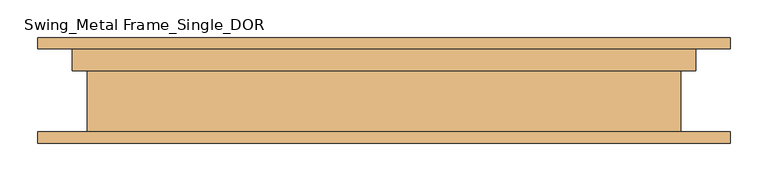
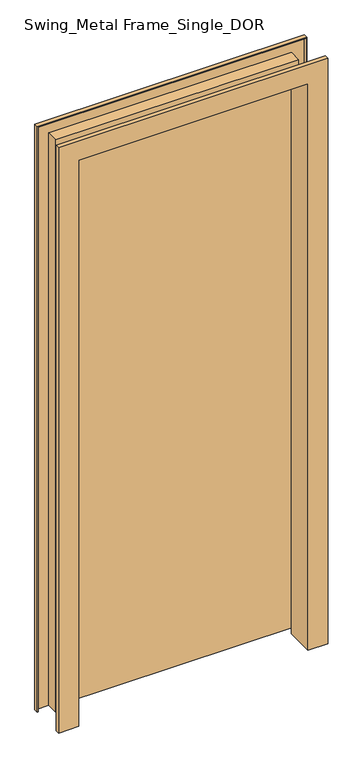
"""IFC4 building model written with IfcOpenShell, lengths in millimetres: door geometry, Swing_Metal Frame_Single_DOR : 2040h x 820 (2110x920 STUD)."""

from ifc_helpers import new_model, si_unit, frame, origin, place, context, project, spatial, polyline, outline, extrude, faceted_brep, source, transform, mapped, element, save


def swing_metal_frame_single_dor_bd4720e7(model_context):
    return source(origin(), model_context, "Body", "SolidModel", [
        extrude(outline(polyline([(410.0, 70.0), (410.0, 30.0), (-410.0, 30.0), (-410.0, 70.0), (410.0, 70.0)])), frame((0.0, 0.0, 20.0), z_axis=(0.0, 0.0, 1.0), x_axis=(1.0, 0.0, 0.0)), (0.0, 0.0, 1.0), 2040.0),
        faceted_brep([(-460.0, -70.0, 0.0), (-460.0, -55.0, 0.0), (-458.0, -55.0, 0.0), (-458.0, -68.0, 0.0), (-394.0, -68.0, 0.0), (-394.0, 26.0, 0.0), (-414.0, 26.0, 0.0), (-414.0, 68.0, 0.0), (-458.0, 68.0, 0.0), (-458.0, 55.0, 0.0), (-460.0, 55.0, 0.0), (-460.0, 70.0, 0.0), (-412.0, 70.0, 0.0), (-412.0, 28.0, 0.0), (-392.0, 28.0, 0.0), (-392.0, -70.0, 0.0), (-460.0, -70.0, 2110.0), (-460.0, -55.0, 2110.0), (460.0, -55.0, 2110.0), (460.0, -55.0, 0.0), (458.0, -55.0, 0.0), (458.0, -55.0, 2108.0), (-458.0, -55.0, 2108.0), (-458.0, -68.0, 2108.0), (458.0, -68.0, 2108.0), (458.0, -68.0, 0.0), (394.0, -68.0, 0.0), (394.0, -68.0, 2044.0), (-394.0, -68.0, 2044.0), (-394.0, 26.0, 2044.0), (394.0, 26.0, 2044.0), (394.0, 26.0, 0.0), (414.0, 26.0, 0.0), (414.0, 26.0, 2064.0), (-414.0, 26.0, 2064.0), (-414.0, 68.0, 2064.0), (414.0, 68.0, 2064.0), (414.0, 68.0, 0.0), (458.0, 68.0, 0.0), (458.0, 68.0, 2108.0), (-458.0, 68.0, 2108.0), (-458.0, 55.0, 2108.0), (458.0, 55.0, 2108.0), (458.0, 55.0, 0.0), (460.0, 55.0, 0.0), (460.0, 55.0, 2110.0), (-460.0, 55.0, 2110.0), (-460.0, 70.0, 2110.0), (460.0, 70.0, 2110.0), (460.0, 70.0, 0.0), (412.0, 70.0, 0.0), (412.0, 70.0, 2062.0), (-412.0, 70.0, 2062.0), (-412.0, 28.0, 2062.0), (412.0, 28.0, 2062.0), (412.0, 28.0, 0.0), (392.0, 28.0, 0.0), (392.0, 28.0, 2042.0), (-392.0, 28.0, 2042.0), (-392.0, -70.0, 2042.0), (392.0, -70.0, 2042.0), (392.0, -70.0, 0.0), (460.0, -70.0, 0.0), (460.0, -70.0, 2110.0)], [[[0, 1, 2, 3, 4, 5, 6, 7, 8, 9, 10, 11, 12, 13, 14, 15]], [[1, 0, 16, 17]], [[2, 1, 17, 18, 19, 20, 21, 22]], [[3, 2, 22, 23]], [[4, 3, 23, 24, 25, 26, 27, 28]], [[5, 4, 28, 29]], [[6, 5, 29, 30, 31, 32, 33, 34]], [[7, 6, 34, 35]], [[8, 7, 35, 36, 37, 38, 39, 40]], [[9, 8, 40, 41]], [[10, 9, 41, 42, 43, 44, 45, 46]], [[11, 10, 46, 47]], [[12, 11, 47, 48, 49, 50, 51, 52]], [[13, 12, 52, 53]], [[14, 13, 53, 54, 55, 56, 57, 58]], [[15, 14, 58, 59]], [[0, 15, 59, 60, 61, 62, 63, 16]], [[18, 63, 62, 19]], [[62, 61, 56, 55, 50, 49, 44, 43, 38, 37, 32, 31, 26, 25, 20, 19]], [[24, 21, 20, 25]], [[30, 27, 26, 31]], [[36, 33, 32, 37]], [[42, 39, 38, 43]], [[48, 45, 44, 49]], [[54, 51, 50, 55]], [[60, 57, 56, 61]], [[17, 16, 63, 18]], [[23, 22, 21, 24]], [[29, 28, 27, 30]], [[35, 34, 33, 36]], [[41, 40, 39, 42]], [[47, 46, 45, 48]], [[53, 52, 51, 54]], [[59, 58, 57, 60]]]),
    ])


if __name__ == "__main__":
    model = new_model("IFC4")
    model_context = context("Model", 3, world=origin())
    ifc_project = project(units=[si_unit("LENGTHUNIT", "METRE", prefix="MILLI")], contexts=[model_context])
    site = spatial("IfcSite", under=ifc_project)
    building = spatial("IfcBuilding", under=site)
    placement = place(None, origin())
    swing_metal_frame_single_dor_shape = swing_metal_frame_single_dor_bd4720e7(model_context)
    element("IfcDoor", 1, ObjectType="Swing_Metal Frame_Single_DOR : 2040h x 820 (2110x920 STUD)", at=placement, inside=building, context=model_context, shape_type="MappedRepresentation", body=[
        mapped(swing_metal_frame_single_dor_shape, transform((0.0, 0.0, 0.0), x_axis=(1.0, 0.0, 0.0), y_axis=(0.0, 1.0, 0.0), z_axis=(0.0, 0.0, 1.0))),
    ])
    save(model, "model.ifc")
